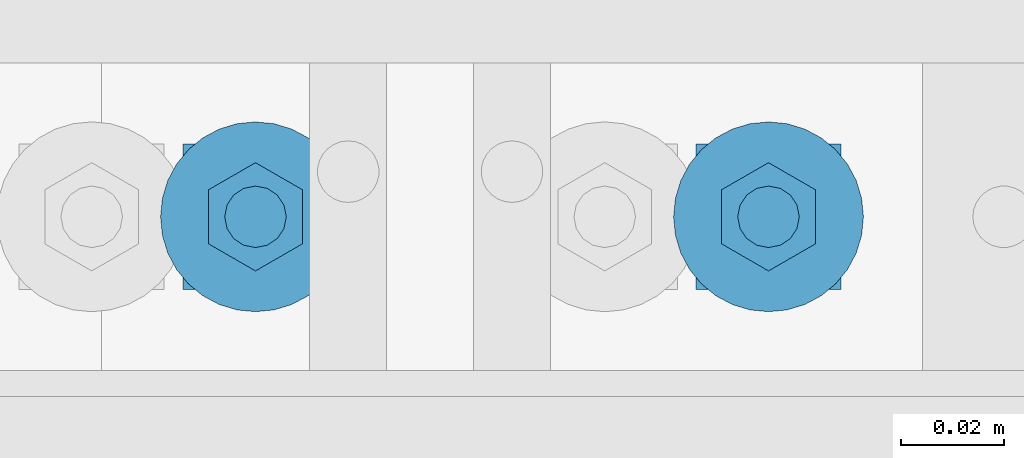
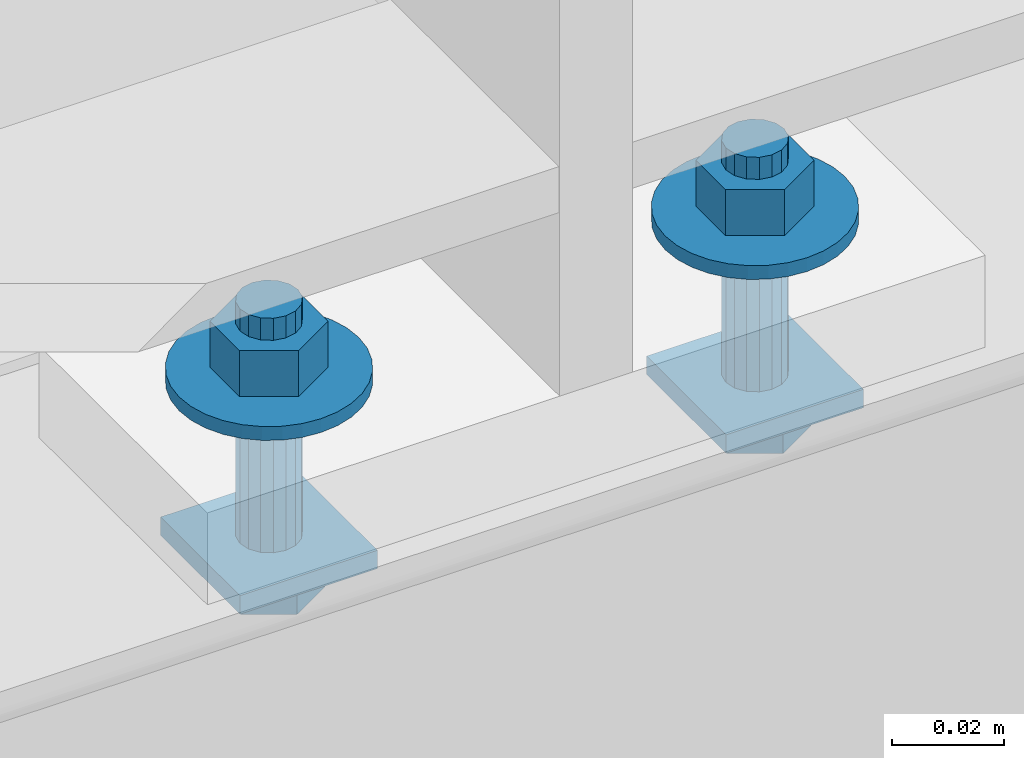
# One storey, part 265 of 825: 1 mechanical fastener.
"""IFC2X3 building model written with IfcOpenShell, lengths in millimetres."""

from ifc_helpers import new_model, entity, si_unit, converted_unit, origin_with_axes, place, context, project, spatial, faceted_brep, element, save


model = new_model("IFC2X3")

# Units and contexts
model_context = context("Model", 3, precision=1e-09, world=origin_with_axes())
ifc_project = project(units=[si_unit("LENGTHUNIT", "METRE", prefix="MILLI"), si_unit("AREAUNIT", "SQUARE_METRE"), si_unit("VOLUMEUNIT", "CUBIC_METRE"), converted_unit("PLANEANGLEUNIT", "DEGREE", entity("IfcPlaneAngleMeasure", 0.01745329), si_unit("PLANEANGLEUNIT", "RADIAN"), dimensions=[0, 0, 0, 0, 0, 0, 0])], contexts=[model_context])

# Site, building, storey
site_placement = place(None, origin_with_axes())
site = spatial("IfcSite", under=ifc_project, at=site_placement, Name="Cnopf'sche Kinderklinik", CompositionType="ELEMENT")
building_placement = place(site_placement, origin_with_axes())
building = spatial("IfcBuilding", under=site, at=building_placement, Name="Struktur 1", CompositionType="ELEMENT")
storey_placement = place(building_placement, origin_with_axes())
storey = spatial("IfcBuildingStorey", under=building, at=storey_placement, Name="Default Storey", CompositionType="ELEMENT", Elevation=0.0)

# Mechanical fastener
mechanical_fastener_placement = place(None, origin_with_axes())
element("IfcMechanicalFastener", 1, at=mechanical_fastener_placement, inside=storey, ObjectType="Bolt#512", NominalDiameter=12.0, NominalLength=55.0, context=model_context, shape_type="Brep", body=[
    faceted_brep([(4345.649553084, 4540.879107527, 12561.797304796), (4345.649553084, 4540.879107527, 12565.797304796), (4373.933824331, 4540.879107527, 12565.797304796), (4373.933824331, 4540.879107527, 12561.797304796), (4373.933824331, 4512.59483628, 12565.797304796), (4373.933824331, 4512.59483628, 12561.797304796), (4345.649553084, 4512.59483628, 12565.797304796), (4345.649553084, 4512.59483628, 12561.797304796)], [[[0, 1, 2, 3]], [[3, 2, 4, 5]], [[5, 4, 6, 7]], [[7, 6, 1, 0]], [[3, 5, 7, 0]], [[2, 1, 6, 4]]]),
    faceted_brep([(4445.649553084, 4540.879107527, 12561.797304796), (4445.649553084, 4540.879107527, 12565.797304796), (4473.933824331, 4540.879107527, 12565.797304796), (4473.933824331, 4540.879107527, 12561.797304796), (4473.933824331, 4512.59483628, 12565.797304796), (4473.933824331, 4512.59483628, 12561.797304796), (4445.649553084, 4512.59483628, 12565.797304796), (4445.649553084, 4512.59483628, 12561.797304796)], [[[0, 1, 2, 3]], [[3, 2, 4, 5]], [[5, 4, 6, 7]], [[7, 6, 1, 0]], [[3, 5, 7, 0]], [[2, 1, 6, 4]]]),
    faceted_brep([(4351.118444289, 4531.744471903, 12554.297304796), (4351.118444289, 4531.744471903, 12561.797304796), (4359.791688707, 4536.751971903, 12561.797304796), (4359.791688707, 4536.751971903, 12554.297304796), (4368.464933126, 4531.744471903, 12561.797304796), (4368.464933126, 4531.744471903, 12554.297304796), (4368.464933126, 4521.729471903, 12561.797304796), (4368.464933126, 4521.729471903, 12554.297304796), (4359.791688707, 4516.721971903, 12561.797304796), (4359.791688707, 4516.721971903, 12554.297304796), (4351.118444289, 4521.729471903, 12561.797304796), (4351.118444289, 4521.729471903, 12554.297304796)], [[[0, 1, 2, 3]], [[3, 2, 4, 5]], [[5, 4, 6, 7]], [[7, 6, 8, 9]], [[9, 8, 10, 11]], [[11, 10, 1, 0]], [[3, 5, 7, 9, 11, 0]], [[2, 1, 10, 8, 6, 4]]]),
    faceted_brep([(4451.118444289, 4531.744471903, 12554.297304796), (4451.118444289, 4531.744471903, 12561.797304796), (4459.791688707, 4536.751971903, 12561.797304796), (4459.791688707, 4536.751971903, 12554.297304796), (4468.464933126, 4531.744471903, 12561.797304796), (4468.464933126, 4531.744471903, 12554.297304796), (4468.464933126, 4521.729471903, 12561.797304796), (4468.464933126, 4521.729471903, 12554.297304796), (4459.791688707, 4516.721971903, 12561.797304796), (4459.791688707, 4516.721971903, 12554.297304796), (4451.118444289, 4521.729471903, 12561.797304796), (4451.118444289, 4521.729471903, 12554.297304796)], [[[0, 1, 2, 3]], [[3, 2, 4, 5]], [[5, 4, 6, 7]], [[7, 6, 8, 9]], [[9, 8, 10, 11]], [[11, 10, 1, 0]], [[3, 5, 7, 9, 11, 0]], [[2, 1, 10, 8, 6, 4]]]),
    faceted_brep([(4365.791688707, 4526.736971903, 12599.0), (4365.791688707, 4526.736971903, 12565.797304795), (4365.334965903, 4529.033072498, 12565.797304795), (4365.334965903, 4529.033072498, 12599.0), (4364.034329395, 4530.97961259, 12565.797304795), (4364.034329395, 4530.97961259, 12599.0), (4362.087789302, 4532.280249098, 12565.797304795), (4362.087789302, 4532.280249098, 12599.0), (4359.791688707, 4532.736971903, 12565.797304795), (4359.791688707, 4532.736971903, 12599.0), (4357.495588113, 4532.280249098, 12565.797304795), (4357.495588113, 4532.280249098, 12599.0), (4355.54904802, 4530.97961259, 12565.797304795), (4355.54904802, 4530.97961259, 12599.0), (4354.248411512, 4529.033072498, 12565.797304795), (4354.248411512, 4529.033072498, 12599.0), (4353.791688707, 4526.736971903, 12565.797304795), (4353.791688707, 4526.736971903, 12599.0), (4354.248411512, 4524.440871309, 12565.797304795), (4354.248411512, 4524.440871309, 12599.0), (4355.54904802, 4522.494331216, 12565.797304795), (4355.54904802, 4522.494331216, 12599.0), (4357.495588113, 4521.193694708, 12565.797304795), (4357.495588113, 4521.193694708, 12599.0), (4359.791688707, 4520.736971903, 12565.797304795), (4359.791688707, 4520.736971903, 12599.0), (4362.087789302, 4521.193694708, 12565.797304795), (4362.087789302, 4521.193694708, 12599.0), (4364.034329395, 4522.494331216, 12565.797304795), (4364.034329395, 4522.494331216, 12599.0), (4365.334965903, 4524.440871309, 12565.797304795), (4365.334965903, 4524.440871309, 12599.0)], [[[0, 1, 2, 3]], [[3, 2, 4, 5]], [[5, 4, 6, 7]], [[7, 6, 8, 9]], [[9, 8, 10, 11]], [[11, 10, 12, 13]], [[13, 12, 14, 15]], [[15, 14, 16, 17]], [[17, 16, 18, 19]], [[19, 18, 20, 21]], [[21, 20, 22, 23]], [[23, 22, 24, 25]], [[25, 24, 26, 27]], [[27, 26, 28, 29]], [[29, 28, 30, 31]], [[31, 30, 1, 0]], [[2, 1, 30, 28, 26, 24, 22, 20, 18, 16, 14, 12, 10, 8, 6, 4]], [[31, 0, 3, 5, 7, 9, 11, 13, 15, 17, 19, 21, 23, 25, 27, 29]]]),
    faceted_brep([(4465.791688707, 4526.736971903, 12599.0), (4465.791688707, 4526.736971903, 12565.797304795), (4465.334965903, 4529.033072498, 12565.797304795), (4465.334965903, 4529.033072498, 12599.0), (4464.034329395, 4530.97961259, 12565.797304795), (4464.034329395, 4530.97961259, 12599.0), (4462.087789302, 4532.280249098, 12565.797304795), (4462.087789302, 4532.280249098, 12599.0), (4459.791688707, 4532.736971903, 12565.797304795), (4459.791688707, 4532.736971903, 12599.0), (4457.495588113, 4532.280249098, 12565.797304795), (4457.495588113, 4532.280249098, 12599.0), (4455.54904802, 4530.97961259, 12565.797304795), (4455.54904802, 4530.97961259, 12599.0), (4454.248411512, 4529.033072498, 12565.797304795), (4454.248411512, 4529.033072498, 12599.0), (4453.791688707, 4526.736971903, 12565.797304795), (4453.791688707, 4526.736971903, 12599.0), (4454.248411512, 4524.440871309, 12565.797304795), (4454.248411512, 4524.440871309, 12599.0), (4455.54904802, 4522.494331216, 12565.797304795), (4455.54904802, 4522.494331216, 12599.0), (4457.495588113, 4521.193694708, 12565.797304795), (4457.495588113, 4521.193694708, 12599.0), (4459.791688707, 4520.736971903, 12565.797304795), (4459.791688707, 4520.736971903, 12599.0), (4462.087789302, 4521.193694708, 12565.797304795), (4462.087789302, 4521.193694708, 12599.0), (4464.034329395, 4522.494331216, 12565.797304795), (4464.034329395, 4522.494331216, 12599.0), (4465.334965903, 4524.440871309, 12565.797304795), (4465.334965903, 4524.440871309, 12599.0)], [[[0, 1, 2, 3]], [[3, 2, 4, 5]], [[5, 4, 6, 7]], [[7, 6, 8, 9]], [[9, 8, 10, 11]], [[11, 10, 12, 13]], [[13, 12, 14, 15]], [[15, 14, 16, 17]], [[17, 16, 18, 19]], [[19, 18, 20, 21]], [[21, 20, 22, 23]], [[23, 22, 24, 25]], [[25, 24, 26, 27]], [[27, 26, 28, 29]], [[29, 28, 30, 31]], [[31, 30, 1, 0]], [[2, 1, 30, 28, 26, 24, 22, 20, 18, 16, 14, 12, 10, 8, 6, 4]], [[31, 0, 3, 5, 7, 9, 11, 13, 15, 17, 19, 21, 23, 25, 27, 29]]]),
    faceted_brep([(4378.291688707, 4526.736971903, 12602.0), (4378.291688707, 4526.736971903, 12599.0), (4377.936216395, 4530.346142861, 12599.0), (4377.936216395, 4530.346142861, 12602.0), (4376.883460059, 4533.816615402, 12599.0), (4376.883460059, 4533.816615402, 12602.0), (4375.173876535, 4537.015021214, 12599.0), (4375.173876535, 4537.015021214, 12602.0), (4372.873164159, 4539.818447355, 12599.0), (4372.873164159, 4539.818447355, 12602.0), (4370.069738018, 4542.119159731, 12599.0), (4370.069738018, 4542.119159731, 12602.0), (4366.871332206, 4543.828743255, 12599.0), (4366.871332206, 4543.828743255, 12602.0), (4363.400859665, 4544.881499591, 12599.0), (4363.400859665, 4544.881499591, 12602.0), (4359.791688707, 4545.236971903, 12599.0), (4359.791688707, 4545.236971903, 12602.0), (4356.18251775, 4544.881499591, 12599.0), (4356.18251775, 4544.881499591, 12602.0), (4352.712045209, 4543.828743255, 12599.0), (4352.712045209, 4543.828743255, 12602.0), (4349.513639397, 4542.119159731, 12599.0), (4349.513639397, 4542.119159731, 12602.0), (4346.710213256, 4539.818447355, 12599.0), (4346.710213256, 4539.818447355, 12602.0), (4344.40950088, 4537.015021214, 12599.0), (4344.40950088, 4537.015021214, 12602.0), (4342.699917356, 4533.816615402, 12599.0), (4342.699917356, 4533.816615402, 12602.0), (4341.64716102, 4530.346142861, 12599.0), (4341.64716102, 4530.346142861, 12602.0), (4341.291688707, 4526.736971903, 12599.0), (4341.291688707, 4526.736971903, 12602.0), (4341.64716102, 4523.127800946, 12599.0), (4341.64716102, 4523.127800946, 12602.0), (4342.699917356, 4519.657328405, 12599.0), (4342.699917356, 4519.657328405, 12602.0), (4344.40950088, 4516.458922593, 12599.0), (4344.40950088, 4516.458922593, 12602.0), (4346.710213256, 4513.655496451, 12599.0), (4346.710213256, 4513.655496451, 12602.0), (4349.513639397, 4511.354784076, 12599.0), (4349.513639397, 4511.354784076, 12602.0), (4352.712045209, 4509.645200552, 12599.0), (4352.712045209, 4509.645200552, 12602.0), (4356.18251775, 4508.592444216, 12599.0), (4356.18251775, 4508.592444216, 12602.0), (4359.791688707, 4508.236971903, 12599.0), (4359.791688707, 4508.236971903, 12602.0), (4363.400859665, 4508.592444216, 12599.0), (4363.400859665, 4508.592444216, 12602.0), (4366.871332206, 4509.645200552, 12599.0), (4366.871332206, 4509.645200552, 12602.0), (4370.069738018, 4511.354784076, 12599.0), (4370.069738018, 4511.354784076, 12602.0), (4372.873164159, 4513.655496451, 12599.0), (4372.873164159, 4513.655496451, 12602.0), (4375.173876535, 4516.458922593, 12599.0), (4375.173876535, 4516.458922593, 12602.0), (4376.883460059, 4519.657328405, 12599.0), (4376.883460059, 4519.657328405, 12602.0), (4377.936216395, 4523.127800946, 12599.0), (4377.936216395, 4523.127800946, 12602.0)], [[[0, 1, 2, 3]], [[3, 2, 4, 5]], [[5, 4, 6, 7]], [[7, 6, 8, 9]], [[9, 8, 10, 11]], [[11, 10, 12, 13]], [[13, 12, 14, 15]], [[15, 14, 16, 17]], [[17, 16, 18, 19]], [[19, 18, 20, 21]], [[21, 20, 22, 23]], [[23, 22, 24, 25]], [[25, 24, 26, 27]], [[27, 26, 28, 29]], [[29, 28, 30, 31]], [[31, 30, 32, 33]], [[33, 32, 34, 35]], [[35, 34, 36, 37]], [[37, 36, 38, 39]], [[39, 38, 40, 41]], [[41, 40, 42, 43]], [[43, 42, 44, 45]], [[45, 44, 46, 47]], [[47, 46, 48, 49]], [[49, 48, 50, 51]], [[51, 50, 52, 53]], [[53, 52, 54, 55]], [[55, 54, 56, 57]], [[57, 56, 58, 59]], [[59, 58, 60, 61]], [[61, 60, 62, 63]], [[63, 62, 1, 0]], [[2, 1, 62, 60, 58, 56, 54, 52, 50, 48, 46, 44, 42, 40, 38, 36, 34, 32, 30, 28, 26, 24, 22, 20, 18, 16, 14, 12, 10, 8, 6, 4]], [[63, 0, 3, 5, 7, 9, 11, 13, 15, 17, 19, 21, 23, 25, 27, 29, 31, 33, 35, 37, 39, 41, 43, 45, 47, 49, 51, 53, 55, 57, 59, 61]]]),
    faceted_brep([(4478.291688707, 4526.736971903, 12602.0), (4478.291688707, 4526.736971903, 12599.0), (4477.936216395, 4530.346142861, 12599.0), (4477.936216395, 4530.346142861, 12602.0), (4476.883460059, 4533.816615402, 12599.0), (4476.883460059, 4533.816615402, 12602.0), (4475.173876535, 4537.015021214, 12599.0), (4475.173876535, 4537.015021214, 12602.0), (4472.873164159, 4539.818447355, 12599.0), (4472.873164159, 4539.818447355, 12602.0), (4470.069738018, 4542.119159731, 12599.0), (4470.069738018, 4542.119159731, 12602.0), (4466.871332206, 4543.828743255, 12599.0), (4466.871332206, 4543.828743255, 12602.0), (4463.400859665, 4544.881499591, 12599.0), (4463.400859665, 4544.881499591, 12602.0), (4459.791688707, 4545.236971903, 12599.0), (4459.791688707, 4545.236971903, 12602.0), (4456.18251775, 4544.881499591, 12599.0), (4456.18251775, 4544.881499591, 12602.0), (4452.712045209, 4543.828743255, 12599.0), (4452.712045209, 4543.828743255, 12602.0), (4449.513639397, 4542.119159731, 12599.0), (4449.513639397, 4542.119159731, 12602.0), (4446.710213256, 4539.818447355, 12599.0), (4446.710213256, 4539.818447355, 12602.0), (4444.40950088, 4537.015021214, 12599.0), (4444.40950088, 4537.015021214, 12602.0), (4442.699917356, 4533.816615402, 12599.0), (4442.699917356, 4533.816615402, 12602.0), (4441.64716102, 4530.346142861, 12599.0), (4441.64716102, 4530.346142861, 12602.0), (4441.291688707, 4526.736971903, 12599.0), (4441.291688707, 4526.736971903, 12602.0), (4441.64716102, 4523.127800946, 12599.0), (4441.64716102, 4523.127800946, 12602.0), (4442.699917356, 4519.657328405, 12599.0), (4442.699917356, 4519.657328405, 12602.0), (4444.40950088, 4516.458922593, 12599.0), (4444.40950088, 4516.458922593, 12602.0), (4446.710213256, 4513.655496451, 12599.0), (4446.710213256, 4513.655496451, 12602.0), (4449.513639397, 4511.354784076, 12599.0), (4449.513639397, 4511.354784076, 12602.0), (4452.712045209, 4509.645200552, 12599.0), (4452.712045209, 4509.645200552, 12602.0), (4456.18251775, 4508.592444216, 12599.0), (4456.18251775, 4508.592444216, 12602.0), (4459.791688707, 4508.236971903, 12599.0), (4459.791688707, 4508.236971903, 12602.0), (4463.400859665, 4508.592444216, 12599.0), (4463.400859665, 4508.592444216, 12602.0), (4466.871332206, 4509.645200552, 12599.0), (4466.871332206, 4509.645200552, 12602.0), (4470.069738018, 4511.354784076, 12599.0), (4470.069738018, 4511.354784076, 12602.0), (4472.873164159, 4513.655496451, 12599.0), (4472.873164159, 4513.655496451, 12602.0), (4475.173876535, 4516.458922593, 12599.0), (4475.173876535, 4516.458922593, 12602.0), (4476.883460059, 4519.657328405, 12599.0), (4476.883460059, 4519.657328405, 12602.0), (4477.936216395, 4523.127800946, 12599.0), (4477.936216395, 4523.127800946, 12602.0)], [[[0, 1, 2, 3]], [[3, 2, 4, 5]], [[5, 4, 6, 7]], [[7, 6, 8, 9]], [[9, 8, 10, 11]], [[11, 10, 12, 13]], [[13, 12, 14, 15]], [[15, 14, 16, 17]], [[17, 16, 18, 19]], [[19, 18, 20, 21]], [[21, 20, 22, 23]], [[23, 22, 24, 25]], [[25, 24, 26, 27]], [[27, 26, 28, 29]], [[29, 28, 30, 31]], [[31, 30, 32, 33]], [[33, 32, 34, 35]], [[35, 34, 36, 37]], [[37, 36, 38, 39]], [[39, 38, 40, 41]], [[41, 40, 42, 43]], [[43, 42, 44, 45]], [[45, 44, 46, 47]], [[47, 46, 48, 49]], [[49, 48, 50, 51]], [[51, 50, 52, 53]], [[53, 52, 54, 55]], [[55, 54, 56, 57]], [[57, 56, 58, 59]], [[59, 58, 60, 61]], [[61, 60, 62, 63]], [[63, 62, 1, 0]], [[2, 1, 62, 60, 58, 56, 54, 52, 50, 48, 46, 44, 42, 40, 38, 36, 34, 32, 30, 28, 26, 24, 22, 20, 18, 16, 14, 12, 10, 8, 6, 4]], [[63, 0, 3, 5, 7, 9, 11, 13, 15, 17, 19, 21, 23, 25, 27, 29, 31, 33, 35, 37, 39, 41, 43, 45, 47, 49, 51, 53, 55, 57, 59, 61]]]),
    faceted_brep([(4350.655120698, 4532.011971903, 12602.0), (4350.655120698, 4532.011971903, 12612.0), (4359.791688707, 4537.286971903, 12612.0), (4359.791688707, 4537.286971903, 12602.0), (4368.928256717, 4532.011971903, 12612.0), (4368.928256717, 4532.011971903, 12602.0), (4368.928256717, 4521.461971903, 12612.0), (4368.928256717, 4521.461971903, 12602.0), (4359.791688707, 4516.186971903, 12612.0), (4359.791688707, 4516.186971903, 12602.0), (4350.655120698, 4521.461971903, 12612.0), (4350.655120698, 4521.461971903, 12602.0)], [[[0, 1, 2, 3]], [[3, 2, 4, 5]], [[5, 4, 6, 7]], [[7, 6, 8, 9]], [[9, 8, 10, 11]], [[11, 10, 1, 0]], [[3, 5, 7, 9, 11, 0]], [[2, 1, 10, 8, 6, 4]]]),
    faceted_brep([(4450.655120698, 4532.011971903, 12602.0), (4450.655120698, 4532.011971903, 12612.0), (4459.791688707, 4537.286971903, 12612.0), (4459.791688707, 4537.286971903, 12602.0), (4468.928256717, 4532.011971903, 12612.0), (4468.928256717, 4532.011971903, 12602.0), (4468.928256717, 4521.461971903, 12612.0), (4468.928256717, 4521.461971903, 12602.0), (4459.791688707, 4516.186971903, 12612.0), (4459.791688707, 4516.186971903, 12602.0), (4450.655120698, 4521.461971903, 12612.0), (4450.655120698, 4521.461971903, 12602.0)], [[[0, 1, 2, 3]], [[3, 2, 4, 5]], [[5, 4, 6, 7]], [[7, 6, 8, 9]], [[9, 8, 10, 11]], [[11, 10, 1, 0]], [[3, 5, 7, 9, 11, 0]], [[2, 1, 10, 8, 6, 4]]]),
    faceted_brep([(4365.791688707, 4526.736971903, 12616.797304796), (4365.791688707, 4526.736971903, 12612.000000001), (4365.334965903, 4529.033072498, 12612.000000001), (4365.334965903, 4529.033072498, 12616.797304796), (4364.034329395, 4530.97961259, 12612.000000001), (4364.034329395, 4530.97961259, 12616.797304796), (4362.087789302, 4532.280249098, 12612.000000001), (4362.087789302, 4532.280249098, 12616.797304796), (4359.791688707, 4532.736971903, 12612.000000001), (4359.791688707, 4532.736971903, 12616.797304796), (4357.495588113, 4532.280249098, 12612.000000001), (4357.495588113, 4532.280249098, 12616.797304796), (4355.54904802, 4530.97961259, 12612.000000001), (4355.54904802, 4530.97961259, 12616.797304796), (4354.248411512, 4529.033072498, 12612.000000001), (4354.248411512, 4529.033072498, 12616.797304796), (4353.791688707, 4526.736971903, 12612.000000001), (4353.791688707, 4526.736971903, 12616.797304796), (4354.248411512, 4524.440871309, 12612.000000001), (4354.248411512, 4524.440871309, 12616.797304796), (4355.54904802, 4522.494331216, 12612.000000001), (4355.54904802, 4522.494331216, 12616.797304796), (4357.495588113, 4521.193694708, 12612.000000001), (4357.495588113, 4521.193694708, 12616.797304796), (4359.791688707, 4520.736971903, 12612.000000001), (4359.791688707, 4520.736971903, 12616.797304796), (4362.087789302, 4521.193694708, 12612.000000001), (4362.087789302, 4521.193694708, 12616.797304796), (4364.034329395, 4522.494331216, 12612.000000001), (4364.034329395, 4522.494331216, 12616.797304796), (4365.334965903, 4524.440871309, 12612.000000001), (4365.334965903, 4524.440871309, 12616.797304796)], [[[0, 1, 2, 3]], [[3, 2, 4, 5]], [[5, 4, 6, 7]], [[7, 6, 8, 9]], [[9, 8, 10, 11]], [[11, 10, 12, 13]], [[13, 12, 14, 15]], [[15, 14, 16, 17]], [[17, 16, 18, 19]], [[19, 18, 20, 21]], [[21, 20, 22, 23]], [[23, 22, 24, 25]], [[25, 24, 26, 27]], [[27, 26, 28, 29]], [[29, 28, 30, 31]], [[31, 30, 1, 0]], [[2, 1, 30, 28, 26, 24, 22, 20, 18, 16, 14, 12, 10, 8, 6, 4]], [[31, 0, 3, 5, 7, 9, 11, 13, 15, 17, 19, 21, 23, 25, 27, 29]]]),
    faceted_brep([(4465.791688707, 4526.736971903, 12616.797304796), (4465.791688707, 4526.736971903, 12612.000000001), (4465.334965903, 4529.033072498, 12612.000000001), (4465.334965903, 4529.033072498, 12616.797304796), (4464.034329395, 4530.97961259, 12612.000000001), (4464.034329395, 4530.97961259, 12616.797304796), (4462.087789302, 4532.280249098, 12612.000000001), (4462.087789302, 4532.280249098, 12616.797304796), (4459.791688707, 4532.736971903, 12612.000000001), (4459.791688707, 4532.736971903, 12616.797304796), (4457.495588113, 4532.280249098, 12612.000000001), (4457.495588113, 4532.280249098, 12616.797304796), (4455.54904802, 4530.97961259, 12612.000000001), (4455.54904802, 4530.97961259, 12616.797304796), (4454.248411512, 4529.033072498, 12612.000000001), (4454.248411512, 4529.033072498, 12616.797304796), (4453.791688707, 4526.736971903, 12612.000000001), (4453.791688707, 4526.736971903, 12616.797304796), (4454.248411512, 4524.440871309, 12612.000000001), (4454.248411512, 4524.440871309, 12616.797304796), (4455.54904802, 4522.494331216, 12612.000000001), (4455.54904802, 4522.494331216, 12616.797304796), (4457.495588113, 4521.193694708, 12612.000000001), (4457.495588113, 4521.193694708, 12616.797304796), (4459.791688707, 4520.736971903, 12612.000000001), (4459.791688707, 4520.736971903, 12616.797304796), (4462.087789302, 4521.193694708, 12612.000000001), (4462.087789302, 4521.193694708, 12616.797304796), (4464.034329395, 4522.494331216, 12612.000000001), (4464.034329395, 4522.494331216, 12616.797304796), (4465.334965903, 4524.440871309, 12612.000000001), (4465.334965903, 4524.440871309, 12616.797304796)], [[[0, 1, 2, 3]], [[3, 2, 4, 5]], [[5, 4, 6, 7]], [[7, 6, 8, 9]], [[9, 8, 10, 11]], [[11, 10, 12, 13]], [[13, 12, 14, 15]], [[15, 14, 16, 17]], [[17, 16, 18, 19]], [[19, 18, 20, 21]], [[21, 20, 22, 23]], [[23, 22, 24, 25]], [[25, 24, 26, 27]], [[27, 26, 28, 29]], [[29, 28, 30, 31]], [[31, 30, 1, 0]], [[2, 1, 30, 28, 26, 24, 22, 20, 18, 16, 14, 12, 10, 8, 6, 4]], [[31, 0, 3, 5, 7, 9, 11, 13, 15, 17, 19, 21, 23, 25, 27, 29]]]),
])

save(model, "model.ifc")
